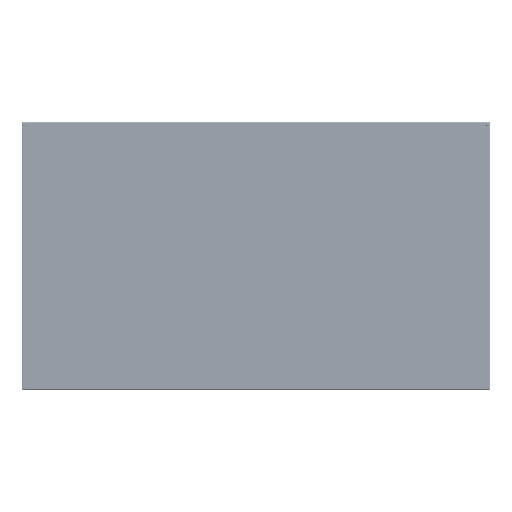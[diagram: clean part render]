
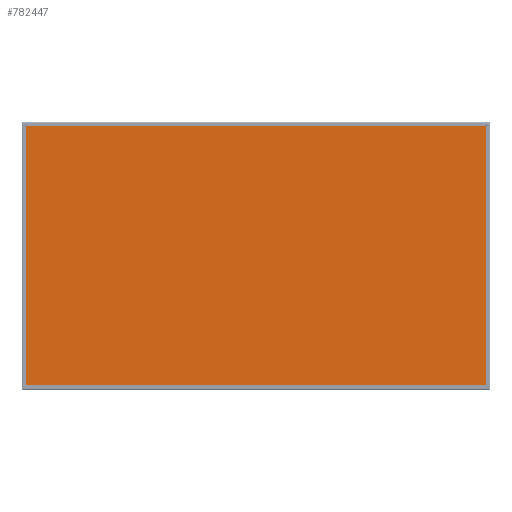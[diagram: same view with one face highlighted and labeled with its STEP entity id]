
A CAD part, top view. The second image highlights one B-rep face of the part: STEP entity #782447.
In plain terms, the highlighted planar face has unit normal (0, 0, 1).
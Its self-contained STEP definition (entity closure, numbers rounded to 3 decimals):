
#18697 = LINE ( 'NONE', #560721, #501971 ) ;
#26713 = CARTESIAN_POINT ( 'NONE',  ( 714.248, 401.848, 0. ) ) ;
#65025 = VECTOR ( 'NONE', #648408, 1000. ) ;
#114496 = CARTESIAN_POINT ( 'NONE',  ( -714.248, 401.848, 0. ) ) ;
#115232 = CARTESIAN_POINT ( 'NONE',  ( 714.248, -401.848, 0. ) ) ;
#118100 = DIRECTION ( 'NONE',  ( 0., 0., 1. ) ) ;
#193816 = CARTESIAN_POINT ( 'NONE',  ( 714.248, 401.848, 0. ) ) ;
#236882 = CARTESIAN_POINT ( 'NONE',  ( -714.248, -401.848, 0. ) ) ;
#324928 = LINE ( 'NONE', #392321, #880143 ) ;
#392321 = CARTESIAN_POINT ( 'NONE',  ( 714.248, -401.848, 0. ) ) ;
#401032 = VERTEX_POINT ( 'NONE', #26713 ) ;
#403315 = EDGE_CURVE ( 'NONE', #401032, #757397, #581081, .T. ) ;
#433109 = CARTESIAN_POINT ( 'NONE',  ( 0., 0., 0. ) ) ;
#469699 = EDGE_CURVE ( 'NONE', #794811, #401032, #590144, .T. ) ;
#475143 = AXIS2_PLACEMENT_3D ( 'NONE', #433109, #118100, #530789 ) ;
#498643 = DIRECTION ( 'NONE',  ( 0., -1., 0. ) ) ;
#501971 = VECTOR ( 'NONE', #498643, 1000. ) ;
#530125 = ORIENTED_EDGE ( 'NONE', *, *, #403315, .T. ) ;
#530789 = DIRECTION ( 'NONE',  ( 1., 0., 0. ) ) ;
#538453 = ORIENTED_EDGE ( 'NONE', *, *, #919903, .T. ) ;
#556910 = ORIENTED_EDGE ( 'NONE', *, *, #469699, .T. ) ;
#560721 = CARTESIAN_POINT ( 'NONE',  ( -714.248, -401.848, 0. ) ) ;
#581081 = LINE ( 'NONE', #193816, #65025 ) ;
#590144 = LINE ( 'NONE', #115232, #652659 ) ;
#608384 = FACE_OUTER_BOUND ( 'NONE', #619242, .T. ) ;
#619242 = EDGE_LOOP ( 'NONE', ( #734580, #538453, #556910, #530125 ) ) ;
#639920 = DIRECTION ( 'NONE',  ( 1., 0., 0. ) ) ;
#648408 = DIRECTION ( 'NONE',  ( -1., 0., 0. ) ) ;
#652659 = VECTOR ( 'NONE', #966569, 1000. ) ;
#734580 = ORIENTED_EDGE ( 'NONE', *, *, #789786, .T. ) ;
#757397 = VERTEX_POINT ( 'NONE', #114496 ) ;
#782447 = ADVANCED_FACE ( 'NONE', ( #608384 ), #825001, .T. ) ;
#789786 = EDGE_CURVE ( 'NONE', #757397, #1003083, #18697, .T. ) ;
#791121 = CARTESIAN_POINT ( 'NONE',  ( 714.248, -401.848, 0. ) ) ;
#794811 = VERTEX_POINT ( 'NONE', #791121 ) ;
#825001 = PLANE ( 'NONE',  #475143 ) ;
#880143 = VECTOR ( 'NONE', #639920, 1000. ) ;
#919903 = EDGE_CURVE ( 'NONE', #1003083, #794811, #324928, .T. ) ;
#966569 = DIRECTION ( 'NONE',  ( 0., 1., 0. ) ) ;
#1003083 = VERTEX_POINT ( 'NONE', #236882 ) ;
